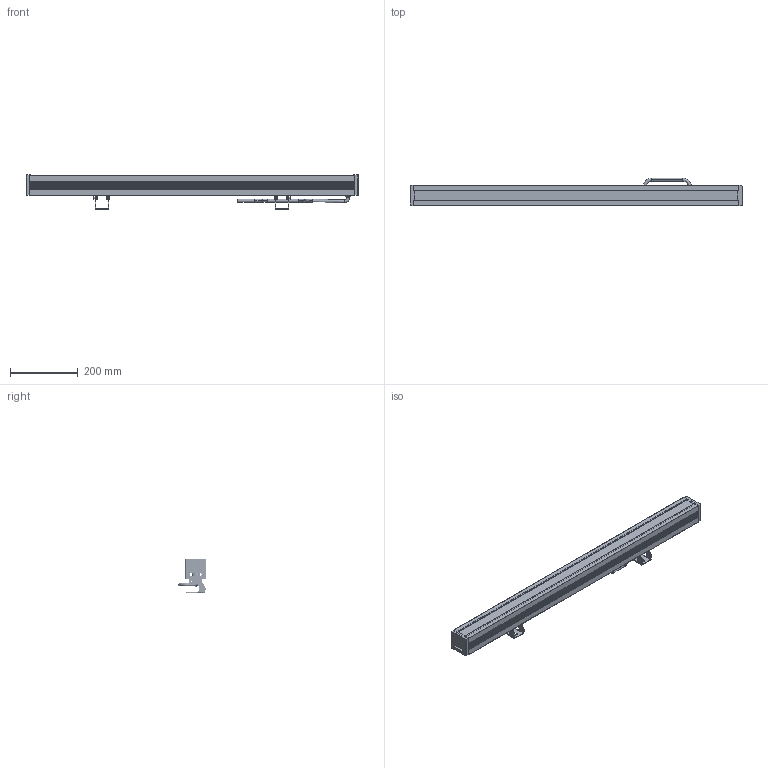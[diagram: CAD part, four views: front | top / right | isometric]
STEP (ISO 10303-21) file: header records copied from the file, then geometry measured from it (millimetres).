
FILE_DESCRIPTION(/* description */ (''),/* implementation_level */ '2;1');
FILE_NAME(/* name */ 'NL716700_SUPERSPIKE 975mm',/* time_stamp */ '2018-01-29T11:40:53+01:00',/* author */ (''),/* organization */ (''),/* preprocessor_version */ 'ST-DEVELOPER v15',/* originating_system */ '',/* authorisation */ '');
FILE_SCHEMA (('CONFIG_CONTROL_DESIGN'));
Length unit declared in the file: millimetre
Products named in the file (1): Document
Bounding box: 978.8 x 81.31 x 100.45 mm (x, y, z)
Volume: 290294.1 mm3; surface area: 920732.2 mm2
Topology: 13 solids, 20 shells, 776 faces, 2179 edges, 1451 vertices
Faces by surface type: plane 412, bspline 364
Entity records: 26672 total; most frequent: CARTESIAN_POINT 13929, ORIENTED_EDGE 3964, EDGE_CURVE 2179, VERTEX_POINT 1451, B_SPLINE_CURVE_WITH_KNOTS 1304, EDGE_LOOP 849, ADVANCED_FACE 776, FACE_OUTER_BOUND 776
